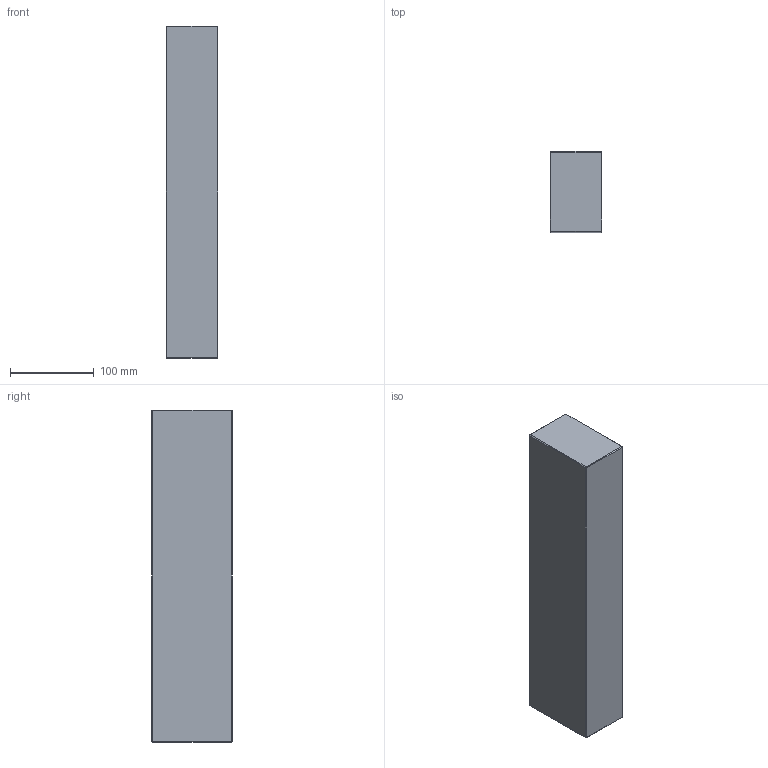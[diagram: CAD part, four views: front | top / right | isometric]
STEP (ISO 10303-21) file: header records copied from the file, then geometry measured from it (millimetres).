
FILE_DESCRIPTION (( 'STEP AP214' ), '1' );
FILE_NAME ('ESP-P-396X396x96.STEP', '2020-04-08T11:14:30', ( 'August' ), ( '' ), 'SwSTEP 2.0', 'SolidWorks 2018', '' );
FILE_SCHEMA (( 'AUTOMOTIVE_DESIGN' ));
Length unit declared in the file: millimetre
Products named in the file (1): ESP-P-396X396x96
Bounding box: 62 x 96 x 396 mm (x, y, z)
Volume: 2355889.3 mm3; surface area: 135738.9 mm2
Topology: 1 solids, 1 shells, 26 faces, 48 edges, 24 vertices
Faces by surface type: plane 26
Entity records: 634 total; most frequent: DIRECTION 102, CARTESIAN_POINT 99, ORIENTED_EDGE 96, VECTOR 48, EDGE_CURVE 48, LINE 48, AXIS2_PLACEMENT_3D 27, EDGE_LOOP 26
